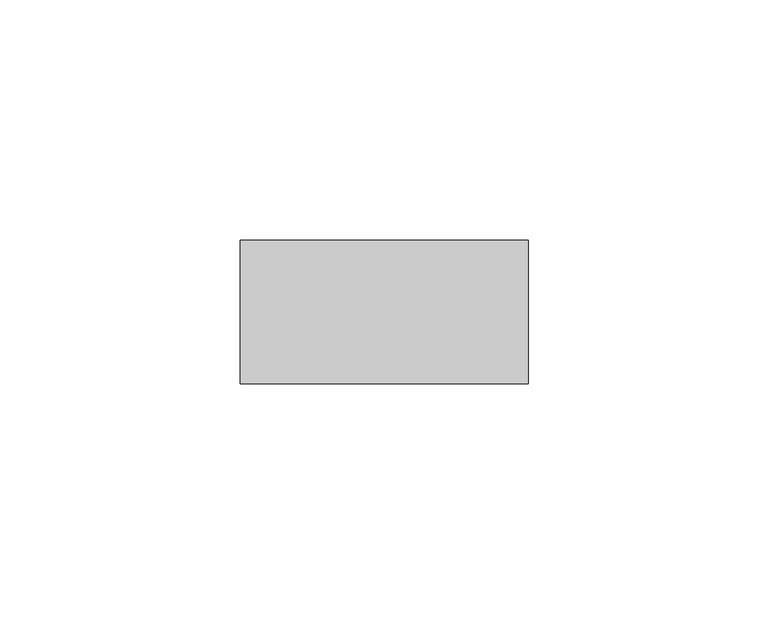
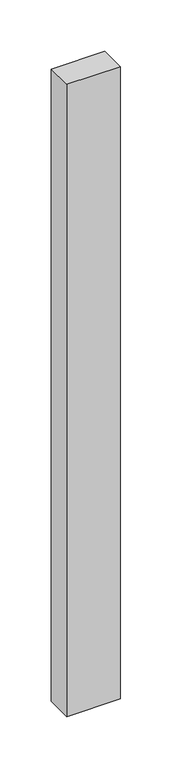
"""IFC4 building model written with IfcOpenShell, lengths in millimetres: member geometry, Прямоугольный импост : Квадрат 30 мм."""

import ifcopenshell
import ifcopenshell.guid

model = None  # the IFC model being written
_history = None  # IfcOwnerHistory: only IFC2X3 demands one
_inside = {}  # id of a spatial element -> (the spatial element, [elements in it])
_under = {}  # id of a project, library or spatial element -> (it, [spatial elements below it])
_declared = {}  # id of a project -> (the project, [libraries it declares])
_typed = {}  # id of a type object -> (the type object, [elements of that type])
_made_of = {}  # id of a material, layer set ... -> (it, [elements and type objects made of it])


def new_model(schema):
    """Start an empty IFC model of exactly this schema.

    Asked for "IFC4X3", IfcOpenShell would pick the latest addendum, in which some entities
    have other attributes; the version numbers below select the first issue.
    IFC2X3 requires an IfcOwnerHistory on every rooted entity: one is made here for all.
    """
    global model, _history
    if schema == "IFC4X3":
        model = ifcopenshell.file(schema_version=(4, 3, 0, 0))
    else:
        model = ifcopenshell.file(schema=schema)
    _inside.clear()
    _under.clear()
    _declared.clear()
    _typed.clear()
    _made_of.clear()
    _history = None
    if model.schema == "IFC2X3":
        org = make("IfcOrganization", Name="unknown")
        user = make(
            "IfcPersonAndOrganization",
            ThePerson=make("IfcPerson", FamilyName="unknown"),
            TheOrganization=org,
        )
        app = make(
            "IfcApplication",
            ApplicationDeveloper=org,
            Version="unknown",
            ApplicationFullName="unknown",
            ApplicationIdentifier="unknown",
        )
        _history = make(
            "IfcOwnerHistory",
            OwningUser=user,
            OwningApplication=app,
            ChangeAction="ADDED",
            CreationDate=0,
        )
    return model


def make(cls, **values):
    """One entity of the class cls with the attributes given. An attribute that is None is left unset."""
    return model.create_entity(
        cls, **{name: value for name, value in values.items() if value is not None}
    )


def rooted(cls, **values):
    """An entity with a GlobalId (a new one), such as an element, a storey or a relation."""
    return make(cls, GlobalId=ifcopenshell.guid.new(), OwnerHistory=_history, **values)


def si_unit(unit_type, name, prefix=None):
    """IfcSIUnit, for example si_unit("LENGTHUNIT", "METRE", prefix="MILLI")."""
    return make("IfcSIUnit", UnitType=unit_type, Prefix=prefix, Name=name)


def assignment(units):
    """IfcUnitAssignment: the units of a project."""
    return None if units is None else make("IfcUnitAssignment", Units=units)


def point(xyz):
    """IfcCartesianPoint."""
    return None if xyz is None else make("IfcCartesianPoint", Coordinates=xyz)


def direction(xyz):
    """IfcDirection."""
    return None if xyz is None else make("IfcDirection", DirectionRatios=xyz)


def frame(location, z_axis=None, x_axis=None):
    """IfcAxis2Placement3D, a coordinate frame: its origin and axes. An axis left out is left unset."""
    return make(
        "IfcAxis2Placement3D",
        Location=point(location),
        Axis=direction(z_axis),
        RefDirection=direction(x_axis),
    )


def origin():
    """The frame at (0, 0, 0) with its axes left unset."""
    return frame((0.0, 0.0, 0.0))


def place(relative_to, where):
    """IfcLocalPlacement: puts the frame where relative to a parent placement (None: the world)."""
    return make(
        "IfcLocalPlacement", PlacementRelTo=relative_to, RelativePlacement=where
    )


def context(
    kind, dimensions, precision=None, world=None, true_north=None, identifier=None
):
    """IfcGeometricRepresentationContext, for example the 3D "Model" context."""
    return make(
        "IfcGeometricRepresentationContext",
        ContextIdentifier=identifier,
        ContextType=kind,
        CoordinateSpaceDimension=dimensions,
        Precision=precision,
        WorldCoordinateSystem=world,
        TrueNorth=true_north,
    )


def project(units=None, contexts=None):
    """IfcProject with its units and contexts."""
    return rooted(
        "IfcProject",
        Name="project",
        RepresentationContexts=contexts,
        UnitsInContext=assignment(units),
    )


def spatial(cls, under=None, at=None, **own):
    """A site, building, storey or space (cls), placed at a placement, below another one or the project."""
    s = rooted(cls, ObjectPlacement=at, **own)
    if under is not None:
        _under.setdefault(under.id(), (under, []))[1].append(s)
    return s


def polyline(points):
    """IfcPolyline through the points."""
    return make("IfcPolyline", Points=[point(p) for p in points])


def outline(outer, holes=None, kind="AREA"):
    """IfcArbitraryClosedProfileDef: a profile drawn as a closed curve; with holes, ...WithVoids."""
    if holes is None:
        return make("IfcArbitraryClosedProfileDef", ProfileType=kind, OuterCurve=outer)
    return make(
        "IfcArbitraryProfileDefWithVoids",
        ProfileType=kind,
        OuterCurve=outer,
        InnerCurves=holes,
    )


def extrude(swept, where, along, depth):
    """IfcExtrudedAreaSolid: the profile swept, set in the frame where, extruded along a direction by depth."""
    return make(
        "IfcExtrudedAreaSolid",
        SweptArea=swept,
        Position=where,
        ExtrudedDirection=direction(along),
        Depth=depth,
    )


def shape(context_of_items, identifier, shape_type, items):
    """IfcShapeRepresentation: the items that make up one representation, for example the "Body"."""
    return make(
        "IfcShapeRepresentation",
        ContextOfItems=context_of_items,
        RepresentationIdentifier=identifier,
        RepresentationType=shape_type,
        Items=items,
    )


def source(mapping_origin, context_of_items, identifier, shape_type, items):
    """IfcRepresentationMap: a shape defined once, which mapped items show again and again."""
    return make(
        "IfcRepresentationMap",
        MappingOrigin=mapping_origin,
        MappedRepresentation=shape(context_of_items, identifier, shape_type, items),
    )


def transform(
    local_origin,
    x_axis=None,
    y_axis=None,
    z_axis=None,
    scale=None,
    scale2=None,
    scale3=None,
    uniform=True,
):
    """IfcCartesianTransformationOperator3D, or its non-uniform kind. x_axis, y_axis, z_axis: its Axis1, 2, 3."""
    if uniform:
        return make(
            "IfcCartesianTransformationOperator3D",
            Axis1=direction(x_axis),
            Axis2=direction(y_axis),
            LocalOrigin=point(local_origin),
            Scale=scale,
            Axis3=direction(z_axis),
        )
    return make(
        "IfcCartesianTransformationOperator3DnonUniform",
        Axis1=direction(x_axis),
        Axis2=direction(y_axis),
        LocalOrigin=point(local_origin),
        Scale=scale,
        Axis3=direction(z_axis),
        Scale2=scale2,
        Scale3=scale3,
    )


def mapped(mapping_source, mapping_target):
    """IfcMappedItem: shows the shape of a source again, moved by a transform."""
    return make(
        "IfcMappedItem", MappingSource=mapping_source, MappingTarget=mapping_target
    )


def made_of(thing, what):
    """Note that an element or type object is made of a material, layer set ...; save() writes the relation."""
    if what is not None:
        _made_of.setdefault(what.id(), (what, []))[1].append(thing)
    return thing


def element(
    cls,
    number,
    at=None,
    inside=None,
    cuts=None,
    type_object=None,
    material=None,
    context=None,
    identifier="Body",
    shape_type=None,
    held_by="IfcProductDefinitionShape",
    body=None,
    shapes=None,
    **own,
):
    """One element of the class cls, such as IfcWall. Its Tag is "e" and its number.

    at: its placement. inside: the storey or other place that contains it. cuts: it is an
    opening in that element (IfcRelVoidsElement). A single representation is given by context,
    identifier, shape_type and body (its items); several are given by shapes. held_by: the class
    of the entity that holds the representations. save() writes the other relations.
    """
    e = rooted(cls, Tag="e%d" % number, ObjectPlacement=at, **own)
    if body is not None:
        shapes = [shape(context, identifier, shape_type, body)]
    if shapes is not None:
        e.Representation = make(held_by, Representations=shapes)
    if inside is not None:
        _inside.setdefault(inside.id(), (inside, []))[1].append(e)
    if cuts is not None:
        rooted(
            "IfcRelVoidsElement", RelatingBuildingElement=cuts, RelatedOpeningElement=e
        )
    if type_object is not None:
        _typed.setdefault(type_object.id(), (type_object, []))[1].append(e)
    return made_of(e, material)


def aggregate(whole, parts):
    """IfcRelAggregates: a whole, such as a stair, and the parts it consists of."""
    return rooted("IfcRelAggregates", RelatingObject=whole, RelatedObjects=parts)


def save(model, path):
    """Write the relations noted so far, then the file.

    IfcRelAggregates (storeys below a building ...), IfcRelContainedInSpatialStructure (elements
    in a storey), IfcRelDefinesByType, IfcRelAssociatesMaterial and IfcRelDeclares: one each for
    every whole, place, type object, material and project.
    """
    for whole, parts in _under.values():
        aggregate(whole, parts)
    for where, things in _inside.values():
        rooted(
            "IfcRelContainedInSpatialStructure",
            RelatedElements=things,
            RelatingStructure=where,
        )
    for kind, things in _typed.values():
        rooted("IfcRelDefinesByType", RelatedObjects=things, RelatingType=kind)
    for what, things in _made_of.values():
        rooted("IfcRelAssociatesMaterial", RelatedObjects=things, RelatingMaterial=what)
    for by, libraries in _declared.values():
        rooted("IfcRelDeclares", RelatingContext=by, RelatedDefinitions=libraries)
    model.write(path)


def member_a852606d(model_context):
    return source(origin(), model_context, "Body", "SweptSolid", [
        extrude(outline(polyline([(30.0, 15.0), (30.0, -15.0), (-30.0, -15.0), (-30.0, 15.0), (30.0, 15.0)])), frame((0.0, 0.0, -750.0), z_axis=(0.0, 0.0, 1.0), x_axis=(1.0, 0.0, 0.0)), (0.0, 0.0, 1.0), 750.0),
    ])


if __name__ == "__main__":
    model = new_model("IFC4")
    model_context = context("Model", 3, world=origin())
    ifc_project = project(units=[si_unit("LENGTHUNIT", "METRE", prefix="MILLI")], contexts=[model_context])
    site = spatial("IfcSite", under=ifc_project)
    building = spatial("IfcBuilding", under=site)
    placement = place(None, origin())
    member_shape = member_a852606d(model_context)
    element("IfcMember", 1, ObjectType="Прямоугольный импост : Квадрат 30 мм", at=placement, inside=building, context=model_context, shape_type="MappedRepresentation", body=[
        mapped(member_shape, transform((0.0, 0.0, 0.0), x_axis=(1.0, 0.0, 0.0), y_axis=(0.0, 1.0, 0.0), z_axis=(0.0, 0.0, 1.0))),
    ])
    save(model, "model.ifc")
